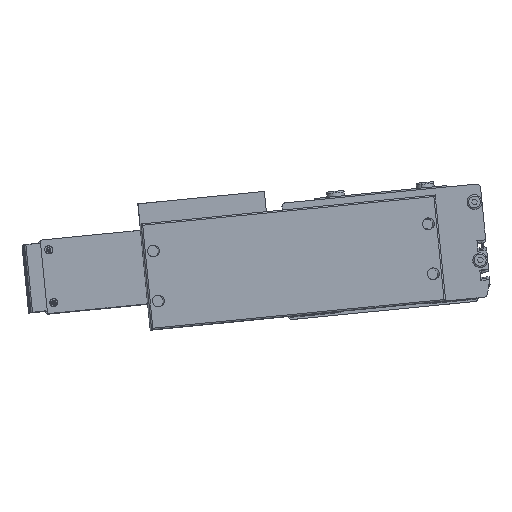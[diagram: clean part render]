
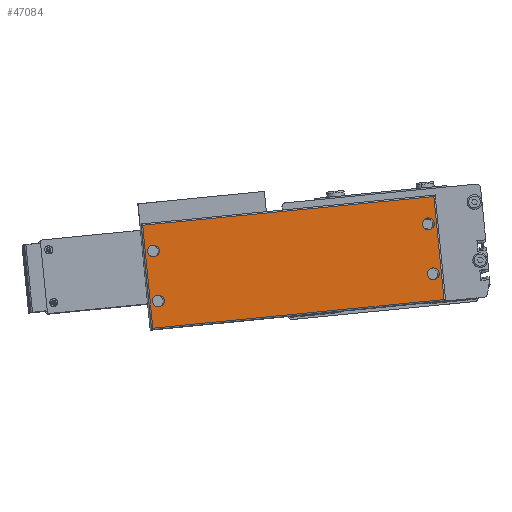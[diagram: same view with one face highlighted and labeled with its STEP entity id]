
A CAD part, top view. The second image highlights one B-rep face of the part: STEP entity #47084.
In plain terms, the highlighted planar face has unit normal (0.017, 0.003, 1) as drawn and (0, 0, 1) by its records, which use the part's own axes.
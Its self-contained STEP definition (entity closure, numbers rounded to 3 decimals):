
#2315 = CIRCLE ( 'NONE', #2336, 4. ) ;
#2328 = DIRECTION ( 'NONE',  ( 1., 0., 0. ) ) ;
#2329 = DIRECTION ( 'NONE',  ( 0., 0., 1. ) ) ;
#2336 = AXIS2_PLACEMENT_3D ( 'NONE', #2342, #2329, #2328 ) ;
#2342 = CARTESIAN_POINT ( 'NONE',  ( 29.25, 19., 44. ) ) ;
#2351 = CARTESIAN_POINT ( 'NONE',  ( 25.25, 19., 44. ) ) ;
#2352 = CARTESIAN_POINT ( 'NONE',  ( -161.75, 19., 44. ) ) ;
#2354 = DIRECTION ( 'NONE',  ( 1., 0., 0. ) ) ;
#2355 = DIRECTION ( 'NONE',  ( 0., 0., 1. ) ) ;
#2356 = CARTESIAN_POINT ( 'NONE',  ( -157.75, 19., 44. ) ) ;
#2359 = CIRCLE ( 'NONE', #2364, 4. ) ;
#2361 = AXIS2_PLACEMENT_3D ( 'NONE', #2356, #2355, #2354 ) ;
#2364 = AXIS2_PLACEMENT_3D ( 'NONE', #2406, #2405, #2404 ) ;
#2382 = CARTESIAN_POINT ( 'NONE',  ( -153.75, 19., 44. ) ) ;
#2387 = CIRCLE ( 'NONE', #2361, 4. ) ;
#2402 = CARTESIAN_POINT ( 'NONE',  ( -161.75, 53., 44. ) ) ;
#2404 = DIRECTION ( 'NONE',  ( 1., 0., 0. ) ) ;
#2405 = DIRECTION ( 'NONE',  ( 0., 0., 1. ) ) ;
#2406 = CARTESIAN_POINT ( 'NONE',  ( -157.75, 53., 44. ) ) ;
#2408 = CARTESIAN_POINT ( 'NONE',  ( -153.75, 53., 44. ) ) ;
#2420 = CARTESIAN_POINT ( 'NONE',  ( 25.25, 53., 44. ) ) ;
#2467 = DIRECTION ( 'NONE',  ( 1., 0., 0. ) ) ;
#2469 = DIRECTION ( 'NONE',  ( 0., 0., 1. ) ) ;
#2471 = CARTESIAN_POINT ( 'NONE',  ( 29.25, 53., 44. ) ) ;
#2480 = CARTESIAN_POINT ( 'NONE',  ( 33.25, 53., 44. ) ) ;
#2481 = AXIS2_PLACEMENT_3D ( 'NONE', #2471, #2469, #2467 ) ;
#2487 = CIRCLE ( 'NONE', #2481, 4. ) ;
#2511 = CARTESIAN_POINT ( 'NONE',  ( 33.25, 19., 44. ) ) ;
#8996 = PLANE ( 'NONE',  #9079 ) ;
#9013 = FACE_BOUND ( 'NONE', #47085, .T. ) ;
#9073 = FACE_BOUND ( 'NONE', #47083, .T. ) ;
#9079 = AXIS2_PLACEMENT_3D ( 'NONE', #9092, #9139, #9138 ) ;
#9080 = FACE_OUTER_BOUND ( 'NONE', #47090, .T. ) ;
#9088 = FACE_BOUND ( 'NONE', #47075, .T. ) ;
#9092 = CARTESIAN_POINT ( 'NONE',  ( -164.25, 0., 44. ) ) ;
#9093 = FACE_BOUND ( 'NONE', #47086, .T. ) ;
#9138 = DIRECTION ( 'NONE',  ( 1., 0., 0. ) ) ;
#9139 = DIRECTION ( 'NONE',  ( 0., 0., 1. ) ) ;
#23853 = CARTESIAN_POINT ( 'NONE',  ( 34.75, 72., 44. ) ) ;
#23854 = LINE ( 'NONE', #23853, #23915 ) ;
#23880 = DIRECTION ( 'NONE',  ( 1., 0., 0. ) ) ;
#23881 = DIRECTION ( 'NONE',  ( 0., 0., 1. ) ) ;
#23882 = CARTESIAN_POINT ( 'NONE',  ( -157.75, 53., 44. ) ) ;
#23888 = DIRECTION ( 'NONE',  ( 1., 0., 0. ) ) ;
#23889 = DIRECTION ( 'NONE',  ( 0., 0., 1. ) ) ;
#23892 = CIRCLE ( 'NONE', #23894, 4. ) ;
#23893 = CIRCLE ( 'NONE', #23904, 4. ) ;
#23894 = AXIS2_PLACEMENT_3D ( 'NONE', #23900, #23889, #23888 ) ;
#23895 = VECTOR ( 'NONE', #23898, 1000. ) ;
#23897 = CARTESIAN_POINT ( 'NONE',  ( -163.25, 1., 44. ) ) ;
#23898 = DIRECTION ( 'NONE',  ( 1., 0., 0. ) ) ;
#23899 = CARTESIAN_POINT ( 'NONE',  ( 35.75, 1., 44. ) ) ;
#23900 = CARTESIAN_POINT ( 'NONE',  ( 29.25, 53., 44. ) ) ;
#23901 = CARTESIAN_POINT ( 'NONE',  ( -163.25, 71., 44. ) ) ;
#23902 = DIRECTION ( 'NONE',  ( -1., 0., 0. ) ) ;
#23903 = VECTOR ( 'NONE', #23902, 1000. ) ;
#23904 = AXIS2_PLACEMENT_3D ( 'NONE', #23882, #23881, #23880 ) ;
#23905 = CARTESIAN_POINT ( 'NONE',  ( -164.25, 71., 44. ) ) ;
#23906 = LINE ( 'NONE', #23905, #23903 ) ;
#23909 = LINE ( 'NONE', #23899, #23895 ) ;
#23910 = CARTESIAN_POINT ( 'NONE',  ( 34.75, 1., 44. ) ) ;
#23912 = CARTESIAN_POINT ( 'NONE',  ( 34.75, 71., 44. ) ) ;
#23914 = DIRECTION ( 'NONE',  ( 0., 1., 0. ) ) ;
#23915 = VECTOR ( 'NONE', #23914, 1000. ) ;
#23933 = DIRECTION ( 'NONE',  ( 1., 0., 0. ) ) ;
#23934 = DIRECTION ( 'NONE',  ( 0., 0., 1. ) ) ;
#23935 = AXIS2_PLACEMENT_3D ( 'NONE', #23946, #23934, #23933 ) ;
#23936 = CIRCLE ( 'NONE', #23935, 4. ) ;
#23940 = DIRECTION ( 'NONE',  ( 1., 0., 0. ) ) ;
#23941 = DIRECTION ( 'NONE',  ( 0., 0., 1. ) ) ;
#23942 = CARTESIAN_POINT ( 'NONE',  ( 29.25, 19., 44. ) ) ;
#23943 = AXIS2_PLACEMENT_3D ( 'NONE', #23942, #23941, #23940 ) ;
#23944 = CIRCLE ( 'NONE', #23943, 4. ) ;
#23946 = CARTESIAN_POINT ( 'NONE',  ( -157.75, 19., 44. ) ) ;
#24070 = DIRECTION ( 'NONE',  ( 0., -1., 0. ) ) ;
#24071 = VECTOR ( 'NONE', #24070, 1000. ) ;
#24072 = CARTESIAN_POINT ( 'NONE',  ( -163.25, 0., 44. ) ) ;
#24080 = LINE ( 'NONE', #24072, #24071 ) ;
#44434 = VERTEX_POINT ( 'NONE', #2351 ) ;
#44438 = EDGE_CURVE ( 'NONE', #44434, #44506, #2315, .T. ) ;
#44447 = VERTEX_POINT ( 'NONE', #2382 ) ;
#44451 = EDGE_CURVE ( 'NONE', #44453, #44447, #2387, .T. ) ;
#44453 = VERTEX_POINT ( 'NONE', #2352 ) ;
#44458 = EDGE_CURVE ( 'NONE', #44463, #44459, #2359, .T. ) ;
#44459 = VERTEX_POINT ( 'NONE', #2408 ) ;
#44463 = VERTEX_POINT ( 'NONE', #2402 ) ;
#44493 = VERTEX_POINT ( 'NONE', #2480 ) ;
#44495 = VERTEX_POINT ( 'NONE', #2420 ) ;
#44496 = EDGE_CURVE ( 'NONE', #44495, #44493, #2487, .T. ) ;
#44506 = VERTEX_POINT ( 'NONE', #2511 ) ;
#47059 = EDGE_CURVE ( 'NONE', #47069, #47062, #23854, .T. ) ;
#47062 = VERTEX_POINT ( 'NONE', #23912 ) ;
#47064 = ORIENTED_EDGE ( 'NONE', *, *, #47196, .T. ) ;
#47067 = EDGE_CURVE ( 'NONE', #47062, #47072, #23906, .T. ) ;
#47068 = ORIENTED_EDGE ( 'NONE', *, *, #47059, .T. ) ;
#47069 = VERTEX_POINT ( 'NONE', #23910 ) ;
#47070 = EDGE_CURVE ( 'NONE', #47071, #47069, #23909, .T. ) ;
#47071 = VERTEX_POINT ( 'NONE', #23897 ) ;
#47072 = VERTEX_POINT ( 'NONE', #23901 ) ;
#47074 = ORIENTED_EDGE ( 'NONE', *, *, #47067, .T. ) ;
#47075 = EDGE_LOOP ( 'NONE', ( #47079, #47091 ) ) ;
#47077 = EDGE_CURVE ( 'NONE', #44493, #44495, #23892, .T. ) ;
#47078 = EDGE_CURVE ( 'NONE', #44459, #44463, #23893, .T. ) ;
#47079 = ORIENTED_EDGE ( 'NONE', *, *, #47095, .F. ) ;
#47081 = ORIENTED_EDGE ( 'NONE', *, *, #47094, .F. ) ;
#47082 = ORIENTED_EDGE ( 'NONE', *, *, #44458, .F. ) ;
#47083 = EDGE_LOOP ( 'NONE', ( #47081, #47092 ) ) ;
#47084 = ADVANCED_FACE ( 'NONE', ( #9013, #9088, #9073, #9093, #9080 ), #8996, .T. ) ;
#47085 = EDGE_LOOP ( 'NONE', ( #47089, #47082 ) ) ;
#47086 = EDGE_LOOP ( 'NONE', ( #47087, #47096 ) ) ;
#47087 = ORIENTED_EDGE ( 'NONE', *, *, #47077, .F. ) ;
#47089 = ORIENTED_EDGE ( 'NONE', *, *, #47078, .F. ) ;
#47090 = EDGE_LOOP ( 'NONE', ( #47097, #47068, #47074, #47064 ) ) ;
#47091 = ORIENTED_EDGE ( 'NONE', *, *, #44451, .F. ) ;
#47092 = ORIENTED_EDGE ( 'NONE', *, *, #44438, .F. ) ;
#47094 = EDGE_CURVE ( 'NONE', #44506, #44434, #23944, .T. ) ;
#47095 = EDGE_CURVE ( 'NONE', #44447, #44453, #23936, .T. ) ;
#47096 = ORIENTED_EDGE ( 'NONE', *, *, #44496, .F. ) ;
#47097 = ORIENTED_EDGE ( 'NONE', *, *, #47070, .T. ) ;
#47196 = EDGE_CURVE ( 'NONE', #47072, #47071, #24080, .T. ) ;
